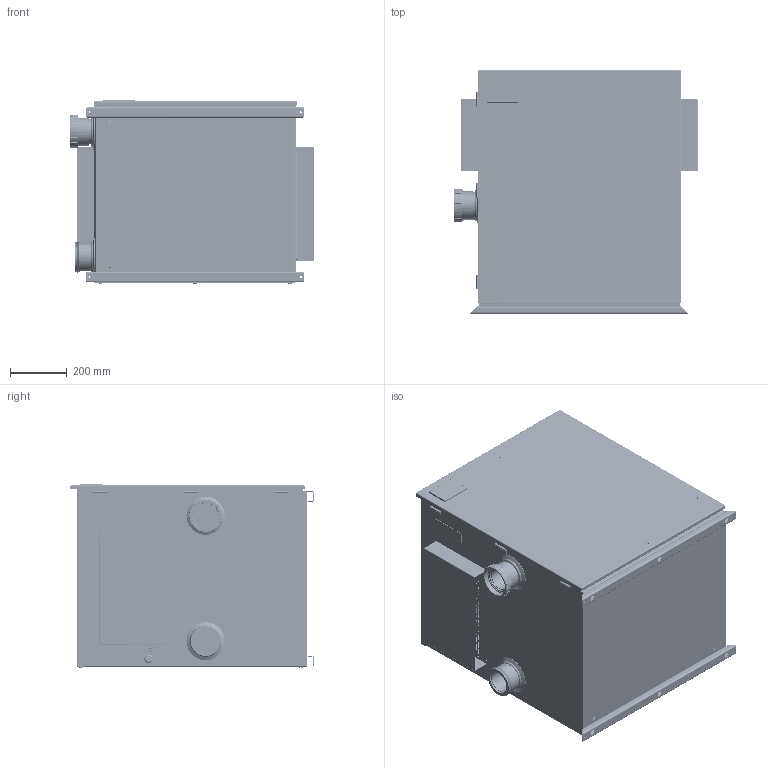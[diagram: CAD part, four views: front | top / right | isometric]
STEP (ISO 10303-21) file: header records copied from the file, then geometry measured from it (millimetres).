
FILE_DESCRIPTION (( 'STEP AP214' ), '1' );
FILE_NAME ('UV-C-PRO-200D GENERATOR.STEP', '2019-03-01T19:55:22', ( '' ), ( '' ), 'SwSTEP 2.0', 'SolidWorks 2017', '' );
FILE_SCHEMA (( 'AUTOMOTIVE_DESIGN' ));
Length unit declared in the file: inch
Products named in the file (1): UV-C-PRO-200D GENERATOR
Bounding box: 862.74 x 861.62 x 654.36 mm (x, y, z)
Surface area: 7045133.6 mm2 (no closed solid volume)
Topology: 0 solids, 131 shells, 700 faces, 8959 edges, 8280 vertices
Faces by surface type: plane 304, cylinder 286, torus 51, bspline 37, cone 12, sphere 10
Entity records: 98976 total; most frequent: CARTESIAN_POINT 25474, DIRECTION 13362, ORIENTED_EDGE 10053, EDGE_CURVE 8956, VERTEX_POINT 8280, AXIS2_PLACEMENT_3D 4474, LINE 4414, VECTOR 4414
